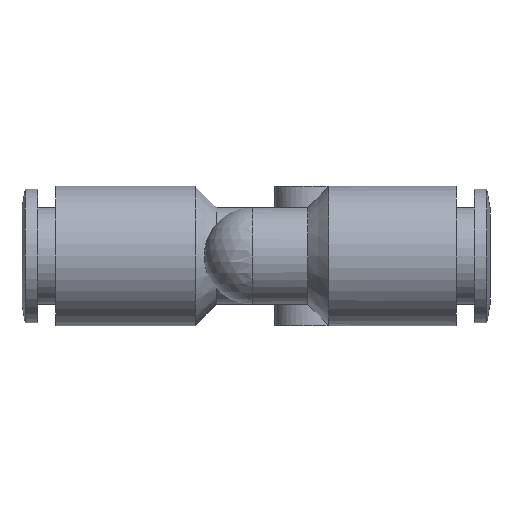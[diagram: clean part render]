
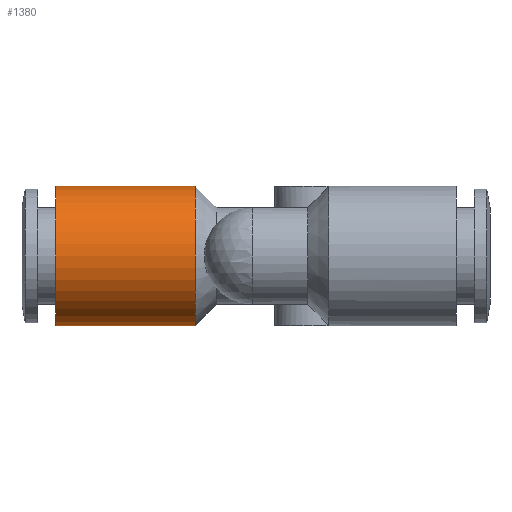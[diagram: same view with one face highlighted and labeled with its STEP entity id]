
A CAD part, left-side view. The second image highlights one B-rep face of the part: STEP entity #1380.
In plain terms, the highlighted cylindrical face has radius 5.75 mm (diameter 11.5 mm), a full revolution.
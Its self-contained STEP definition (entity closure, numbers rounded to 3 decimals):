
#864=CARTESIAN_POINT('',(-5.75,9.3,0.0));
#865=VERTEX_POINT('',#864);
#866=CARTESIAN_POINT('',(0.0,9.3,0.0));
#867=DIRECTION('',(0.0,1.0,0.0));
#868=DIRECTION('',(-1.0,0.0,0.0));
#869=AXIS2_PLACEMENT_3D('',#866,#867,#868);
#870=CIRCLE('',#869,5.75);
#871=EDGE_CURVE('',#865,#865,#870,.T.);
#1361=CARTESIAN_POINT('',(0.0,15.05,0.0));
#1362=DIRECTION('',(0.0,1.0,0.0));
#1363=DIRECTION('',(-1.0,0.0,0.0));
#1364=AXIS2_PLACEMENT_3D('',#1361,#1362,#1363);
#1365=CYLINDRICAL_SURFACE('',#1364,5.75);
#1366=CARTESIAN_POINT('',(-5.75,20.8,0.0));
#1367=VERTEX_POINT('',#1366);
#1368=CARTESIAN_POINT('',(0.0,20.8,0.0));
#1369=DIRECTION('',(0.0,1.0,0.0));
#1370=DIRECTION('',(-1.0,0.0,0.0));
#1371=AXIS2_PLACEMENT_3D('',#1368,#1369,#1370);
#1372=CIRCLE('',#1371,5.75);
#1373=EDGE_CURVE('',#1367,#1367,#1372,.T.);
#1374=ORIENTED_EDGE('',*,*,#1373,.F.);
#1375=EDGE_LOOP('',(#1374));
#1376=FACE_OUTER_BOUND('',#1375,.T.);
#1377=ORIENTED_EDGE('',*,*,#871,.T.);
#1378=EDGE_LOOP('',(#1377));
#1379=FACE_BOUND('',#1378,.T.);
#1380=ADVANCED_FACE('',(#1376,#1379),#1365,.T.);
